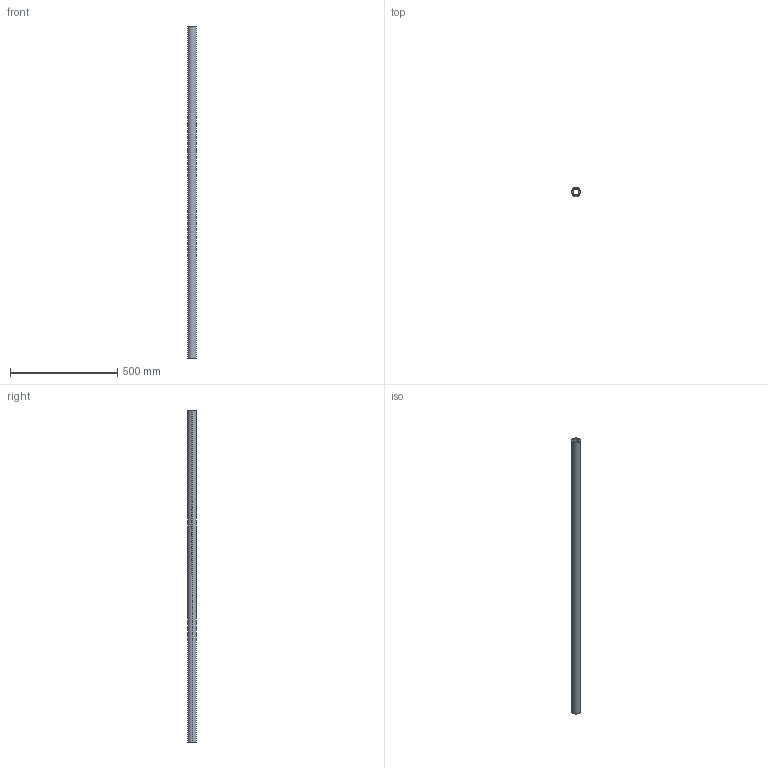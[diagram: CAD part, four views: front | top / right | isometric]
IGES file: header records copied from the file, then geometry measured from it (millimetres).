
Start section: SolidWorks IGES file using analytic representation for surfaces
Global section: file name: C:\Users\IanO\Desktop\L1771_v2\L1771.40_v2\L1771.40_v2_20230705_IGES\L1771.40-1550.igs; native system: SolidWorks 2019; preprocessor: SolidWorks 2019; author: IanO; date: 230705.160656; units: millimetre
Bounding box: 40 x 40 x 1550 mm (x, y, z)
Surface area: 332405.6 mm2 (no closed solid volume)
Topology: 0 solids, 0 shells, 6 faces, 272 edges, 272 vertices
Faces by surface type: revolution 4, bspline 2
